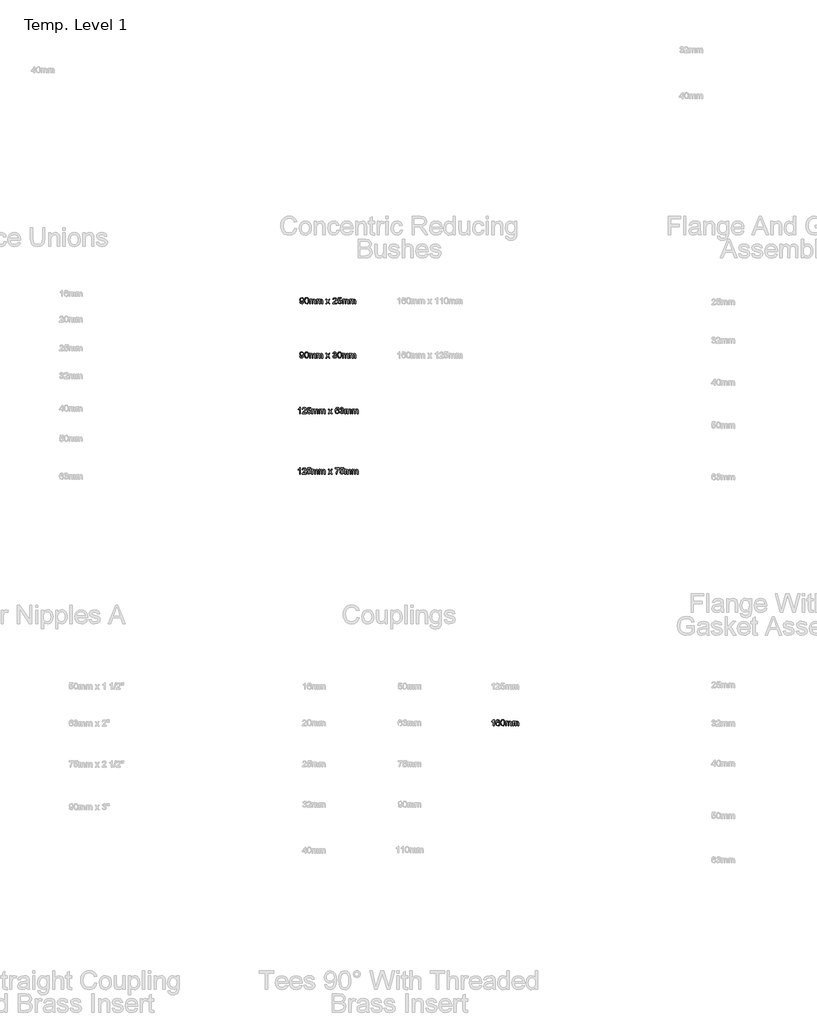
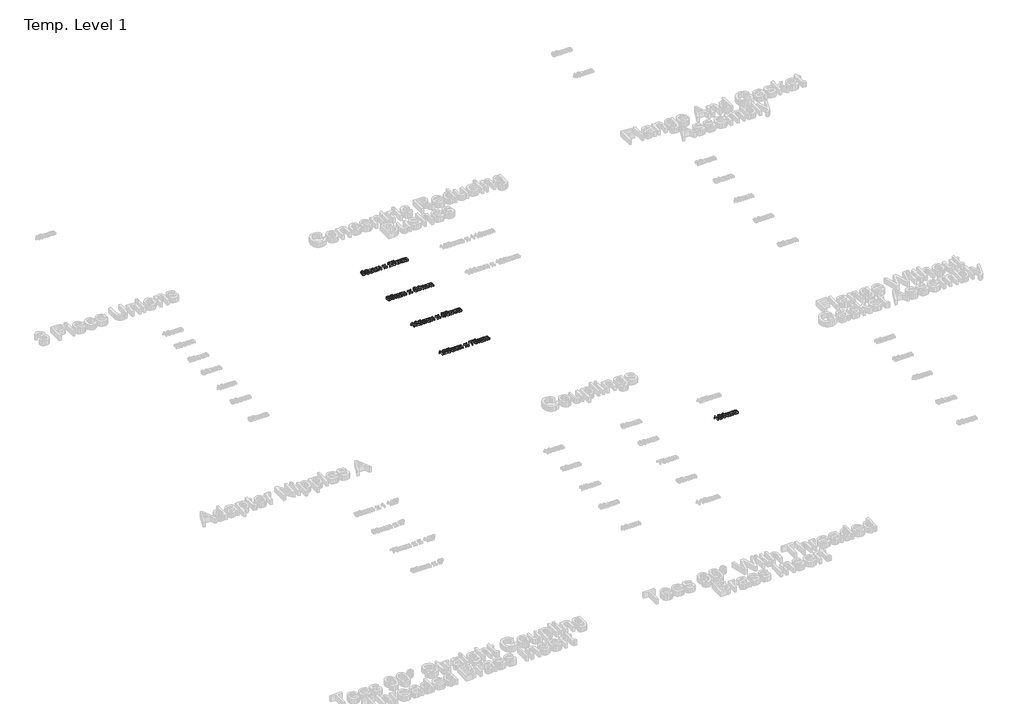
# One storey, part 31 of 62: 5 proxies.
"""IFC4 building model written with IfcOpenShell, lengths in millimetres."""

from ifc_helpers import new_model, si_unit, origin, origin_with_axes, place, context, project, spatial, polyline, outline, extrude, element, save

model = new_model("IFC4")

# Units and contexts
model_context = context("Model", 3, world=origin())
ifc_project = project(units=[si_unit("LENGTHUNIT", "METRE", prefix="MILLI")], contexts=[model_context])

# Site, building, storey
site = spatial("IfcSite", under=ifc_project)
building = spatial("IfcBuilding", under=site)
storey = spatial("IfcBuildingStorey", under=building, Name="Temp. Level 1", Elevation=0.0)

# Proxies
placement = place(None, origin())
element("IfcBuildingElementProxy", 1, Name="50mm Arial", ObjectType="50mm Arial", at=placement, inside=storey, context=model_context, shape_type="SweptSolid", body=[
    extrude(outline(polyline([(17630.8515033, -4514.2550796), (17637.0053494, -4513.4858488), (17639.7697725, -4519.3572431), (17645.0101571, -4521.1781565), (17649.9921283, -4520.0062815), (17653.3695321, -4516.8752719), (17655.3827533, -4511.5267142), (17656.2721763, -4504.3872911), (17651.3142436, -4507.8488296), (17644.5654456, -4509.639695), (17634.2829936, -4505.264695), (17630.0822725, -4493.7382527), (17634.4873206, -4481.8392142), (17645.526984, -4477.3320027), (17654.2950129, -4479.9041181), (17660.3286667, -4487.2358488), (17662.3899648, -4501.0098873), (17660.3346763, -4515.9558008), (17654.2228975, -4524.4233488), (17644.7216956, -4527.3320027), (17635.2625609, -4523.9005123), (17630.8515033, -4514.2550796)]), holes=[polyline([(17656.2361186, -4493.5940219), (17653.5798686, -4486.2142142), (17646.5245802, -4483.4858488), (17639.120734, -4486.4245508), (17636.2361186, -4494.0387335), (17638.964484, -4500.8596469), (17646.3563109, -4503.4858488), (17653.4536667, -4500.8596469), (17656.2361186, -4493.5940219)])]), origin_with_axes(), (0.0, 0.0, 1.0), 15.0),
    extrude(outline(polyline([(17667.7745802, -4502.3440219), (17669.5834744, -4488.1793585), (17674.9560706, -4480.0122911), (17683.9284263, -4477.3320027), (17691.1159263, -4478.9185411), (17696.0798686, -4483.4918585), (17698.964484, -4490.7755123), (17700.0822725, -4502.3440219), (17698.2914071, -4516.4485892), (17692.9368398, -4524.6336854), (17683.9284263, -4527.3320027), (17672.6784263, -4522.6445027), (17669.0005417, -4514.3181806), (17667.7745802, -4502.3440219)]), holes=[polyline([(17673.9284263, -4502.3320027), (17676.8130417, -4517.6144546), (17683.9284263, -4521.1781565), (17691.0438109, -4517.6024354), (17693.9284263, -4502.3320027), (17691.1399648, -4487.2238296), (17683.8563109, -4483.4858488), (17676.9091956, -4486.7791181), (17673.9284263, -4502.3320027)])]), origin_with_axes(), (0.0, 0.0, 1.0), 15.0),
    extrude(outline(polyline([(17707.0053494, -4526.5627719), (17707.0053494, -4490.4089258), (17713.1591956, -4490.4089258), (17713.1591956, -4496.358445), (17717.3899648, -4491.4846469), (17723.4115994, -4489.639695), (17729.5774648, -4491.5207046), (17732.9668879, -4496.7911373), (17737.7685706, -4491.4275556), (17743.8322725, -4489.639695), (17751.8791475, -4492.6144546), (17754.6976571, -4501.7791181), (17754.6976571, -4526.5627719), (17748.5438109, -4526.5627719), (17748.5438109, -4504.4233488), (17747.9728975, -4499.2851277), (17745.9055898, -4496.7550796), (17742.3899648, -4495.7935411), (17736.3382821, -4498.2574835), (17733.9284263, -4506.1541181), (17733.9284263, -4526.5627719), (17727.7745802, -4526.5627719), (17727.7745802, -4503.7382527), (17726.3503013, -4497.7767142), (17721.6808302, -4495.7935411), (17717.1255417, -4497.1156565), (17714.0966956, -4500.9858488), (17713.1591956, -4508.3295988), (17713.1591956, -4526.5627719), (17707.0053494, -4526.5627719)])), origin_with_axes(), (0.0, 0.0, 1.0), 15.0),
    extrude(outline(polyline([(17763.9284263, -4526.5627719), (17763.9284263, -4490.4089258), (17770.0822725, -4490.4089258), (17770.0822725, -4496.358445), (17774.3130417, -4491.4846469), (17780.3346763, -4489.639695), (17786.5005417, -4491.5207046), (17789.8899648, -4496.7911373), (17794.6916475, -4491.4275556), (17800.7553494, -4489.639695), (17808.8022244, -4492.6144546), (17811.620734, -4501.7791181), (17811.620734, -4526.5627719), (17805.4668879, -4526.5627719), (17805.4668879, -4504.4233488), (17804.8959744, -4499.2851277), (17802.8286667, -4496.7550796), (17799.3130417, -4495.7935411), (17793.261359, -4498.2574835), (17790.8515033, -4506.1541181), (17790.8515033, -4526.5627719), (17784.6976571, -4526.5627719), (17784.6976571, -4503.7382527), (17783.2733783, -4497.7767142), (17778.6039071, -4495.7935411), (17774.0486186, -4497.1156565), (17771.0197725, -4500.9858488), (17770.0822725, -4508.3295988), (17770.0822725, -4526.5627719), (17763.9284263, -4526.5627719)])), origin_with_axes(), (0.0, 0.0, 1.0), 15.0),
    extrude(outline(polyline([(17836.2361186, -4526.5627719), (17849.3851571, -4508.389695), (17837.0053494, -4490.4089258), (17844.4091956, -4490.4089258), (17850.3827533, -4499.0627719), (17853.1712148, -4503.1493104), (17855.5870802, -4499.8079642), (17862.3899648, -4490.4089258), (17869.7938109, -4490.4089258), (17856.7890033, -4508.389695), (17869.3130417, -4526.5627719), (17861.9091956, -4526.5627719), (17854.3731379, -4515.6372911), (17852.9909263, -4513.6420988), (17843.6399648, -4526.5627719), (17836.2361186, -4526.5627719)])), origin_with_axes(), (0.0, 0.0, 1.0), 15.0),
    extrude(outline(polyline([(17923.9284263, -4520.4089258), (17923.9284263, -4526.5627719), (17891.620734, -4526.5627719), (17892.2817917, -4522.3199835), (17896.0197725, -4515.7875315), (17903.7240994, -4508.6541181), (17914.3490994, -4498.4017142), (17917.0053494, -4491.4305604), (17914.4993398, -4485.7875315), (17907.9548686, -4483.4858488), (17901.1339552, -4485.733445), (17898.5438109, -4491.9473873), (17892.3899648, -4491.1781565), (17897.1075129, -4480.8776758), (17908.0870802, -4477.3320027), (17919.1027052, -4481.2743104), (17923.1591956, -4491.0579642), (17922.0654456, -4496.8933008), (17918.4296283, -4502.9269546), (17909.6135225, -4511.358445), (17902.5341956, -4517.2779161), (17899.7577533, -4520.4089258), (17923.9284263, -4520.4089258)])), origin_with_axes(), (0.0, 0.0, 1.0), 15.0),
    extrude(outline(polyline([(17930.0822725, -4513.4858488), (17936.2361186, -4512.7166181), (17939.3370802, -4519.0567623), (17945.7673686, -4521.1781565), (17953.4837148, -4518.2274354), (17956.2361186, -4510.3969065), (17953.6579936, -4503.0892142), (17945.8635225, -4500.4089258), (17940.4608783, -4501.4786373), (17937.0053494, -4504.2550796), (17930.8515033, -4503.4858488), (17936.2361186, -4478.1012335), (17960.0822725, -4478.1012335), (17960.0822725, -4484.2550796), (17941.2120802, -4484.2550796), (17938.5798686, -4497.8127719), (17947.5822725, -4494.2550796), (17958.105109, -4498.6661373), (17962.3899648, -4510.0122911), (17958.5317917, -4521.4305604), (17952.9909263, -4525.8566421), (17945.7433302, -4527.3320027), (17934.8839552, -4523.5399354), (17930.0822725, -4513.4858488)])), origin_with_axes(), (0.0, 0.0, 1.0), 15.0),
    extrude(outline(polyline([(17969.3130417, -4526.5627719), (17969.3130417, -4490.4089258), (17975.4668879, -4490.4089258), (17975.4668879, -4496.358445), (17979.6976571, -4491.4846469), (17985.7192917, -4489.639695), (17991.8851571, -4491.5207046), (17995.2745802, -4496.7911373), (18000.0762629, -4491.4275556), (18006.1399648, -4489.639695), (18014.1868398, -4492.6144546), (18017.0053494, -4501.7791181), (18017.0053494, -4526.5627719), (18010.8515033, -4526.5627719), (18010.8515033, -4504.4233488), (18010.2805898, -4499.2851277), (18008.2132821, -4496.7550796), (18004.6976571, -4495.7935411), (17998.6459744, -4498.2574835), (17996.2361186, -4506.1541181), (17996.2361186, -4526.5627719), (17990.0822725, -4526.5627719), (17990.0822725, -4503.7382527), (17988.6579936, -4497.7767142), (17983.9885225, -4495.7935411), (17979.433234, -4497.1156565), (17976.4043879, -4500.9858488), (17975.4668879, -4508.3295988), (17975.4668879, -4526.5627719), (17969.3130417, -4526.5627719)])), origin_with_axes(), (0.0, 0.0, 1.0), 15.0),
    extrude(outline(polyline([(18026.2361186, -4526.5627719), (18026.2361186, -4490.4089258), (18032.3899648, -4490.4089258), (18032.3899648, -4496.358445), (18036.620734, -4491.4846469), (18042.6423686, -4489.639695), (18048.808234, -4491.5207046), (18052.1976571, -4496.7911373), (18056.9993398, -4491.4275556), (18063.0630417, -4489.639695), (18071.1099167, -4492.6144546), (18073.9284263, -4501.7791181), (18073.9284263, -4526.5627719), (18067.7745802, -4526.5627719), (18067.7745802, -4504.4233488), (18067.2036667, -4499.2851277), (18065.136359, -4496.7550796), (18061.620734, -4495.7935411), (18055.5690513, -4498.2574835), (18053.1591956, -4506.1541181), (18053.1591956, -4526.5627719), (18047.0053494, -4526.5627719), (18047.0053494, -4503.7382527), (18045.5810706, -4497.7767142), (18040.9115994, -4495.7935411), (18036.3563109, -4497.1156565), (18033.3274648, -4500.9858488), (18032.3899648, -4508.3295988), (18032.3899648, -4526.5627719), (18026.2361186, -4526.5627719)])), origin_with_axes(), (0.0, 0.0, 1.0), 15.0),
])
element("IfcBuildingElementProxy", 2, Name="50mm Arial", ObjectType="50mm Arial", at=placement, inside=storey, context=model_context, shape_type="SweptSolid", body=[
    extrude(outline(polyline([(17630.8515033, -4945.3908247), (17637.0053494, -4944.6215939), (17639.7697725, -4950.4929882), (17645.0101571, -4952.3139016), (17649.9921283, -4951.1420266), (17653.3695321, -4948.011017), (17655.3827533, -4942.6624593), (17656.2721763, -4935.5230362), (17651.3142436, -4938.9845747), (17644.5654456, -4940.7754401), (17634.2829936, -4936.4004401), (17630.0822725, -4924.8739978), (17634.4873206, -4912.9749593), (17645.526984, -4908.4677478), (17654.2950129, -4911.0398632), (17660.3286667, -4918.3715939), (17662.3899648, -4932.1456324), (17660.3346763, -4947.0915459), (17654.2228975, -4955.5590939), (17644.7216956, -4958.4677478), (17635.2625609, -4955.0362574), (17630.8515033, -4945.3908247)]), holes=[polyline([(17656.2361186, -4924.729767), (17653.5798686, -4917.3499593), (17646.5245802, -4914.6215939), (17639.120734, -4917.5602959), (17636.2361186, -4925.1744786), (17638.964484, -4931.995392), (17646.3563109, -4934.6215939), (17653.4536667, -4931.995392), (17656.2361186, -4924.729767)])]), origin_with_axes(), (0.0, 0.0, 1.0), 15.0),
    extrude(outline(polyline([(17667.7745802, -4933.479767), (17669.5834744, -4919.3151036), (17674.9560706, -4911.1480362), (17683.9284263, -4908.4677478), (17691.1159263, -4910.0542862), (17696.0798686, -4914.6276036), (17698.964484, -4921.9112574), (17700.0822725, -4933.479767), (17698.2914071, -4947.5843343), (17692.9368398, -4955.7694305), (17683.9284263, -4958.4677478), (17672.6784263, -4953.7802478), (17669.0005417, -4945.4539257), (17667.7745802, -4933.479767)]), holes=[polyline([(17673.9284263, -4933.4677478), (17676.8130417, -4948.7501997), (17683.9284263, -4952.3139016), (17691.0438109, -4948.7381805), (17693.9284263, -4933.4677478), (17691.1399648, -4918.3595747), (17683.8563109, -4914.6215939), (17676.9091956, -4917.9148632), (17673.9284263, -4933.4677478)])]), origin_with_axes(), (0.0, 0.0, 1.0), 15.0),
    extrude(outline(polyline([(17707.0053494, -4957.698517), (17707.0053494, -4921.5446709), (17713.1591956, -4921.5446709), (17713.1591956, -4927.4941901), (17717.3899648, -4922.620392), (17723.4115994, -4920.7754401), (17729.5774648, -4922.6564497), (17732.9668879, -4927.9268824), (17737.7685706, -4922.5633007), (17743.8322725, -4920.7754401), (17751.8791475, -4923.7501997), (17754.6976571, -4932.9148632), (17754.6976571, -4957.698517), (17748.5438109, -4957.698517), (17748.5438109, -4935.5590939), (17747.9728975, -4930.4208728), (17745.9055898, -4927.8908247), (17742.3899648, -4926.9292862), (17736.3382821, -4929.3932286), (17733.9284263, -4937.2898632), (17733.9284263, -4957.698517), (17727.7745802, -4957.698517), (17727.7745802, -4934.8739978), (17726.3503013, -4928.9124593), (17721.6808302, -4926.9292862), (17717.1255417, -4928.2514016), (17714.0966956, -4932.1215939), (17713.1591956, -4939.4653439), (17713.1591956, -4957.698517), (17707.0053494, -4957.698517)])), origin_with_axes(), (0.0, 0.0, 1.0), 15.0),
    extrude(outline(polyline([(17763.9284263, -4957.698517), (17763.9284263, -4921.5446709), (17770.0822725, -4921.5446709), (17770.0822725, -4927.4941901), (17774.3130417, -4922.620392), (17780.3346763, -4920.7754401), (17786.5005417, -4922.6564497), (17789.8899648, -4927.9268824), (17794.6916475, -4922.5633007), (17800.7553494, -4920.7754401), (17808.8022244, -4923.7501997), (17811.620734, -4932.9148632), (17811.620734, -4957.698517), (17805.4668879, -4957.698517), (17805.4668879, -4935.5590939), (17804.8959744, -4930.4208728), (17802.8286667, -4927.8908247), (17799.3130417, -4926.9292862), (17793.261359, -4929.3932286), (17790.8515033, -4937.2898632), (17790.8515033, -4957.698517), (17784.6976571, -4957.698517), (17784.6976571, -4934.8739978), (17783.2733783, -4928.9124593), (17778.6039071, -4926.9292862), (17774.0486186, -4928.2514016), (17771.0197725, -4932.1215939), (17770.0822725, -4939.4653439), (17770.0822725, -4957.698517), (17763.9284263, -4957.698517)])), origin_with_axes(), (0.0, 0.0, 1.0), 15.0),
    extrude(outline(polyline([(17836.2361186, -4957.698517), (17849.3851571, -4939.5254401), (17837.0053494, -4921.5446709), (17844.4091956, -4921.5446709), (17850.3827533, -4930.198517), (17853.1712148, -4934.2850555), (17855.5870802, -4930.9437093), (17862.3899648, -4921.5446709), (17869.7938109, -4921.5446709), (17856.7890033, -4939.5254401), (17869.3130417, -4957.698517), (17861.9091956, -4957.698517), (17854.3731379, -4946.7730362), (17852.9909263, -4944.7778439), (17843.6399648, -4957.698517), (17836.2361186, -4957.698517)])), origin_with_axes(), (0.0, 0.0, 1.0), 15.0),
    extrude(outline(polyline([(17892.3899648, -4944.6215939), (17898.5438109, -4943.8523632), (17901.9392436, -4950.3307286), (17908.2914071, -4952.3139016), (17915.7673686, -4949.5855362), (17918.5438109, -4942.8307286), (17915.7914071, -4936.4665459), (17908.7962148, -4933.948517), (17904.4813109, -4934.6215939), (17905.1664071, -4928.4677478), (17913.1351571, -4926.7730362), (17916.2361186, -4921.3403439), (17913.9885225, -4916.526642), (17908.1952533, -4914.6215939), (17902.3298686, -4916.5446709), (17899.3130417, -4922.3139016), (17893.1591956, -4921.5446709), (17898.1952533, -4911.8932286), (17907.9789071, -4908.4677478), (17915.4007821, -4910.1564497), (17920.5930898, -4914.7718343), (17922.3899648, -4920.979767), (17920.683234, -4926.6528439), (17915.6351571, -4930.7273632), (17922.3418879, -4934.9340939), (17924.6976571, -4942.9389016), (17919.9861186, -4953.948517), (17908.0750609, -4958.4677478), (17897.2817917, -4954.6095747), (17892.3899648, -4944.6215939)])), origin_with_axes(), (0.0, 0.0, 1.0), 15.0),
    extrude(outline(polyline([(17930.0822725, -4933.479767), (17931.8911667, -4919.3151036), (17937.2637629, -4911.1480362), (17946.2361186, -4908.4677478), (17953.4236186, -4910.0542862), (17958.3875609, -4914.6276036), (17961.2721763, -4921.9112574), (17962.3899648, -4933.479767), (17960.5990994, -4947.5843343), (17955.2445321, -4955.7694305), (17946.2361186, -4958.4677478), (17934.9861186, -4953.7802478), (17931.308234, -4945.4539257), (17930.0822725, -4933.479767)]), holes=[polyline([(17936.2361186, -4933.4677478), (17939.120734, -4948.7501997), (17946.2361186, -4952.3139016), (17953.3515033, -4948.7381805), (17956.2361186, -4933.4677478), (17953.4476571, -4918.3595747), (17946.1640033, -4914.6215939), (17939.2168879, -4917.9148632), (17936.2361186, -4933.4677478)])]), origin_with_axes(), (0.0, 0.0, 1.0), 15.0),
    extrude(outline(polyline([(17969.3130417, -4957.698517), (17969.3130417, -4921.5446709), (17975.4668879, -4921.5446709), (17975.4668879, -4927.4941901), (17979.6976571, -4922.620392), (17985.7192917, -4920.7754401), (17991.8851571, -4922.6564497), (17995.2745802, -4927.9268824), (18000.0762629, -4922.5633007), (18006.1399648, -4920.7754401), (18014.1868398, -4923.7501997), (18017.0053494, -4932.9148632), (18017.0053494, -4957.698517), (18010.8515033, -4957.698517), (18010.8515033, -4935.5590939), (18010.2805898, -4930.4208728), (18008.2132821, -4927.8908247), (18004.6976571, -4926.9292862), (17998.6459744, -4929.3932286), (17996.2361186, -4937.2898632), (17996.2361186, -4957.698517), (17990.0822725, -4957.698517), (17990.0822725, -4934.8739978), (17988.6579936, -4928.9124593), (17983.9885225, -4926.9292862), (17979.433234, -4928.2514016), (17976.4043879, -4932.1215939), (17975.4668879, -4939.4653439), (17975.4668879, -4957.698517), (17969.3130417, -4957.698517)])), origin_with_axes(), (0.0, 0.0, 1.0), 15.0),
    extrude(outline(polyline([(18026.2361186, -4957.698517), (18026.2361186, -4921.5446709), (18032.3899648, -4921.5446709), (18032.3899648, -4927.4941901), (18036.620734, -4922.620392), (18042.6423686, -4920.7754401), (18048.808234, -4922.6564497), (18052.1976571, -4927.9268824), (18056.9993398, -4922.5633007), (18063.0630417, -4920.7754401), (18071.1099167, -4923.7501997), (18073.9284263, -4932.9148632), (18073.9284263, -4957.698517), (18067.7745802, -4957.698517), (18067.7745802, -4935.5590939), (18067.2036667, -4930.4208728), (18065.136359, -4927.8908247), (18061.620734, -4926.9292862), (18055.5690513, -4929.3932286), (18053.1591956, -4937.2898632), (18053.1591956, -4957.698517), (18047.0053494, -4957.698517), (18047.0053494, -4934.8739978), (18045.5810706, -4928.9124593), (18040.9115994, -4926.9292862), (18036.3563109, -4928.2514016), (18033.3274648, -4932.1215939), (18032.3899648, -4939.4653439), (18032.3899648, -4957.698517), (18026.2361186, -4957.698517)])), origin_with_axes(), (0.0, 0.0, 1.0), 15.0),
])
element("IfcBuildingElementProxy", 3, Name="50mm Arial", ObjectType="50mm Arial", at=placement, inside=storey, context=model_context, shape_type="SweptSolid", body=[
    extrude(outline(polyline([(17634.3130417, -5400.198517), (17628.1591956, -5400.198517), (17628.1591956, -5361.8331324), (17622.3298686, -5365.9857766), (17615.8515033, -5369.0927478), (17615.8515033, -5363.2754401), (17624.8719359, -5357.5182286), (17630.3466956, -5350.9677478), (17634.3130417, -5350.9677478), (17634.3130417, -5400.198517)])), origin_with_axes(), (0.0, 0.0, 1.0), 15.0),
    extrude(outline(polyline([(17680.4668879, -5394.0446709), (17680.4668879, -5400.198517), (17648.1591956, -5400.198517), (17648.8202533, -5395.9557286), (17652.558234, -5389.4232766), (17660.2625609, -5382.2898632), (17670.8875609, -5372.0374593), (17673.5438109, -5365.0663055), (17671.0378013, -5359.4232766), (17664.4933302, -5357.1215939), (17657.6724167, -5359.3691901), (17655.0822725, -5365.5831324), (17648.9284263, -5364.8139016), (17653.6459744, -5354.5134209), (17664.6255417, -5350.9677478), (17675.6411667, -5354.9100555), (17679.6976571, -5364.6937093), (17678.6039071, -5370.5290459), (17674.9680898, -5376.5626997), (17666.151984, -5384.9941901), (17659.0726571, -5390.9136612), (17656.2962148, -5394.0446709), (17680.4668879, -5394.0446709)])), origin_with_axes(), (0.0, 0.0, 1.0), 15.0),
    extrude(outline(polyline([(17686.620734, -5387.1215939), (17692.7745802, -5386.3523632), (17695.8755417, -5392.6925074), (17702.3058302, -5394.8139016), (17710.0221763, -5391.8631805), (17712.7745802, -5384.0326516), (17710.1964552, -5376.7249593), (17702.401984, -5374.0446709), (17696.9993398, -5375.1143824), (17693.5438109, -5377.8908247), (17687.3899648, -5377.1215939), (17692.7745802, -5351.7369786), (17716.620734, -5351.7369786), (17716.620734, -5357.8908247), (17697.7505417, -5357.8908247), (17695.1183302, -5371.448517), (17704.120734, -5367.8908247), (17714.6435706, -5372.3018824), (17718.9284263, -5383.6480362), (17715.0702533, -5395.0663055), (17709.5293879, -5399.4923872), (17702.2817917, -5400.9677478), (17691.4224167, -5397.1756805), (17686.620734, -5387.1215939)])), origin_with_axes(), (0.0, 0.0, 1.0), 15.0),
    extrude(outline(polyline([(17725.8515033, -5400.198517), (17725.8515033, -5364.0446709), (17732.0053494, -5364.0446709), (17732.0053494, -5369.9941901), (17736.2361186, -5365.120392), (17742.2577533, -5363.2754401), (17748.4236186, -5365.1564497), (17751.8130417, -5370.4268824), (17756.6147244, -5365.0633007), (17762.6784263, -5363.2754401), (17770.7253013, -5366.2501997), (17773.5438109, -5375.4148632), (17773.5438109, -5400.198517), (17767.3899648, -5400.198517), (17767.3899648, -5378.0590939), (17766.8190513, -5372.9208728), (17764.7517436, -5370.3908247), (17761.2361186, -5369.4292862), (17755.1844359, -5371.8932286), (17752.7745802, -5379.7898632), (17752.7745802, -5400.198517), (17746.620734, -5400.198517), (17746.620734, -5377.3739978), (17745.1964552, -5371.4124593), (17740.526984, -5369.4292862), (17735.9716956, -5370.7514016), (17732.9428494, -5374.6215939), (17732.0053494, -5381.9653439), (17732.0053494, -5400.198517), (17725.8515033, -5400.198517)])), origin_with_axes(), (0.0, 0.0, 1.0), 15.0),
    extrude(outline(polyline([(17782.7745802, -5400.198517), (17782.7745802, -5364.0446709), (17788.9284263, -5364.0446709), (17788.9284263, -5369.9941901), (17793.1591956, -5365.120392), (17799.1808302, -5363.2754401), (17805.3466956, -5365.1564497), (17808.7361186, -5370.4268824), (17813.5378013, -5365.0633007), (17819.6015033, -5363.2754401), (17827.6483783, -5366.2501997), (17830.4668879, -5375.4148632), (17830.4668879, -5400.198517), (17824.3130417, -5400.198517), (17824.3130417, -5378.0590939), (17823.7421283, -5372.9208728), (17821.6748206, -5370.3908247), (17818.1591956, -5369.4292862), (17812.1075129, -5371.8932286), (17809.6976571, -5379.7898632), (17809.6976571, -5400.198517), (17803.5438109, -5400.198517), (17803.5438109, -5377.3739978), (17802.1195321, -5371.4124593), (17797.4500609, -5369.4292862), (17792.8947725, -5370.7514016), (17789.8659263, -5374.6215939), (17788.9284263, -5381.9653439), (17788.9284263, -5400.198517), (17782.7745802, -5400.198517)])), origin_with_axes(), (0.0, 0.0, 1.0), 15.0),
    extrude(outline(polyline([(17855.0822725, -5400.198517), (17868.2313109, -5382.0254401), (17855.8515033, -5364.0446709), (17863.2553494, -5364.0446709), (17869.2289071, -5372.698517), (17872.0173686, -5376.7850555), (17874.433234, -5373.4437093), (17881.2361186, -5364.0446709), (17888.6399648, -5364.0446709), (17875.6351571, -5382.0254401), (17888.1591956, -5400.198517), (17880.7553494, -5400.198517), (17873.2192917, -5389.2730362), (17871.8370802, -5387.2778439), (17862.4861186, -5400.198517), (17855.0822725, -5400.198517)])), origin_with_axes(), (0.0, 0.0, 1.0), 15.0),
    extrude(outline(polyline([(17942.7745802, -5364.0446709), (17936.620734, -5364.8139016), (17934.2890033, -5359.6816901), (17928.1231379, -5357.1215939), (17922.5702533, -5358.6119786), (17918.3695321, -5364.2069305), (17916.620734, -5375.1744786), (17922.0474167, -5370.2646228), (17928.7721763, -5368.6600555), (17939.2289071, -5373.0470747), (17943.5438109, -5384.3812093), (17941.5125609, -5392.8727959), (17935.9236186, -5398.8824112), (17927.8587148, -5400.9677478), (17915.3166475, -5395.4389016), (17911.6793278, -5388.1191901), (17910.4668879, -5377.2177478), (17911.8130417, -5364.9611372), (17915.8515033, -5356.5807286), (17921.3653254, -5352.370993), (17928.5077533, -5350.9677478), (17938.2313109, -5354.4413055), (17942.7745802, -5364.0446709)]), holes=[polyline([(17916.620734, -5384.2850555), (17918.0450129, -5389.6155843), (17921.8310706, -5393.4857766), (17927.3779456, -5394.8139016), (17934.6315513, -5392.0614978), (17937.3899648, -5384.5855362), (17934.667609, -5377.4280843), (17927.1255417, -5374.8139016), (17919.6796283, -5377.4280843), (17916.620734, -5384.2850555)])]), origin_with_axes(), (0.0, 0.0, 1.0), 15.0),
    extrude(outline(polyline([(17948.9284263, -5387.1215939), (17955.0822725, -5386.3523632), (17958.4777052, -5392.8307286), (17964.8298686, -5394.8139016), (17972.3058302, -5392.0855362), (17975.0822725, -5385.3307286), (17972.3298686, -5378.9665459), (17965.3346763, -5376.448517), (17961.0197725, -5377.1215939), (17961.7048686, -5370.9677478), (17969.6736186, -5369.2730362), (17972.7745802, -5363.8403439), (17970.526984, -5359.026642), (17964.7337148, -5357.1215939), (17958.8683302, -5359.0446709), (17955.8515033, -5364.8139016), (17949.6976571, -5364.0446709), (17954.7337148, -5354.3932286), (17964.5173686, -5350.9677478), (17971.9392436, -5352.6564497), (17977.1315513, -5357.2718343), (17978.9284263, -5363.479767), (17977.2216956, -5369.1528439), (17972.1736186, -5373.2273632), (17978.8803494, -5377.4340939), (17981.2361186, -5385.4389016), (17976.5245802, -5396.448517), (17964.6135225, -5400.9677478), (17953.8202533, -5397.1095747), (17948.9284263, -5387.1215939)])), origin_with_axes(), (0.0, 0.0, 1.0), 15.0),
    extrude(outline(polyline([(17988.1591956, -5400.198517), (17988.1591956, -5364.0446709), (17994.3130417, -5364.0446709), (17994.3130417, -5369.9941901), (17998.5438109, -5365.120392), (18004.5654456, -5363.2754401), (18010.7313109, -5365.1564497), (18014.120734, -5370.4268824), (18018.9224167, -5365.0633007), (18024.9861186, -5363.2754401), (18033.0329936, -5366.2501997), (18035.8515033, -5375.4148632), (18035.8515033, -5400.198517), (18029.6976571, -5400.198517), (18029.6976571, -5378.0590939), (18029.1267436, -5372.9208728), (18027.0594359, -5370.3908247), (18023.5438109, -5369.4292862), (18017.4921283, -5371.8932286), (18015.0822725, -5379.7898632), (18015.0822725, -5400.198517), (18008.9284263, -5400.198517), (18008.9284263, -5377.3739978), (18007.5041475, -5371.4124593), (18002.8346763, -5369.4292862), (17998.2793879, -5370.7514016), (17995.2505417, -5374.6215939), (17994.3130417, -5381.9653439), (17994.3130417, -5400.198517), (17988.1591956, -5400.198517)])), origin_with_axes(), (0.0, 0.0, 1.0), 15.0),
    extrude(outline(polyline([(18045.0822725, -5400.198517), (18045.0822725, -5364.0446709), (18051.2361186, -5364.0446709), (18051.2361186, -5369.9941901), (18055.4668879, -5365.120392), (18061.4885225, -5363.2754401), (18067.6543879, -5365.1564497), (18071.0438109, -5370.4268824), (18075.8454936, -5365.0633007), (18081.9091956, -5363.2754401), (18089.9560706, -5366.2501997), (18092.7745802, -5375.4148632), (18092.7745802, -5400.198517), (18086.620734, -5400.198517), (18086.620734, -5378.0590939), (18086.0498206, -5372.9208728), (18083.9825129, -5370.3908247), (18080.4668879, -5369.4292862), (18074.4152052, -5371.8932286), (18072.0053494, -5379.7898632), (18072.0053494, -5400.198517), (18065.8515033, -5400.198517), (18065.8515033, -5377.3739978), (18064.4272244, -5371.4124593), (18059.7577533, -5369.4292862), (18055.2024648, -5370.7514016), (18052.1736186, -5374.6215939), (18051.2361186, -5381.9653439), (18051.2361186, -5400.198517), (18045.0822725, -5400.198517)])), origin_with_axes(), (0.0, 0.0, 1.0), 15.0),
])
element("IfcBuildingElementProxy", 4, Name="50mm Arial", ObjectType="50mm Arial", at=placement, inside=storey, context=model_context, shape_type="SweptSolid", body=[
    extrude(outline(polyline([(17634.3130417, -5880.198517), (17628.1591956, -5880.198517), (17628.1591956, -5841.8331324), (17622.3298686, -5845.9857766), (17615.8515033, -5849.0927478), (17615.8515033, -5843.2754401), (17624.8719359, -5837.5182286), (17630.3466956, -5830.9677478), (17634.3130417, -5830.9677478), (17634.3130417, -5880.198517)])), origin_with_axes(), (0.0, 0.0, 1.0), 15.0),
    extrude(outline(polyline([(17680.4668879, -5874.0446709), (17680.4668879, -5880.198517), (17648.1591956, -5880.198517), (17648.8202533, -5875.9557286), (17652.558234, -5869.4232766), (17660.2625609, -5862.2898632), (17670.8875609, -5852.0374593), (17673.5438109, -5845.0663055), (17671.0378013, -5839.4232766), (17664.4933302, -5837.1215939), (17657.6724167, -5839.3691901), (17655.0822725, -5845.5831324), (17648.9284263, -5844.8139016), (17653.6459744, -5834.5134209), (17664.6255417, -5830.9677478), (17675.6411667, -5834.9100555), (17679.6976571, -5844.6937093), (17678.6039071, -5850.5290459), (17674.9680898, -5856.5626997), (17666.151984, -5864.9941901), (17659.0726571, -5870.9136612), (17656.2962148, -5874.0446709), (17680.4668879, -5874.0446709)])), origin_with_axes(), (0.0, 0.0, 1.0), 15.0),
    extrude(outline(polyline([(17686.620734, -5867.1215939), (17692.7745802, -5866.3523632), (17695.8755417, -5872.6925074), (17702.3058302, -5874.8139016), (17710.0221763, -5871.8631805), (17712.7745802, -5864.0326516), (17710.1964552, -5856.7249593), (17702.401984, -5854.0446709), (17696.9993398, -5855.1143824), (17693.5438109, -5857.8908247), (17687.3899648, -5857.1215939), (17692.7745802, -5831.7369786), (17716.620734, -5831.7369786), (17716.620734, -5837.8908247), (17697.7505417, -5837.8908247), (17695.1183302, -5851.448517), (17704.120734, -5847.8908247), (17714.6435706, -5852.3018824), (17718.9284263, -5863.6480362), (17715.0702533, -5875.0663055), (17709.5293879, -5879.4923872), (17702.2817917, -5880.9677478), (17691.4224167, -5877.1756805), (17686.620734, -5867.1215939)])), origin_with_axes(), (0.0, 0.0, 1.0), 15.0),
    extrude(outline(polyline([(17725.8515033, -5880.198517), (17725.8515033, -5844.0446709), (17732.0053494, -5844.0446709), (17732.0053494, -5849.9941901), (17736.2361186, -5845.120392), (17742.2577533, -5843.2754401), (17748.4236186, -5845.1564497), (17751.8130417, -5850.4268824), (17756.6147244, -5845.0633007), (17762.6784263, -5843.2754401), (17770.7253013, -5846.2501997), (17773.5438109, -5855.4148632), (17773.5438109, -5880.198517), (17767.3899648, -5880.198517), (17767.3899648, -5858.0590939), (17766.8190513, -5852.9208728), (17764.7517436, -5850.3908247), (17761.2361186, -5849.4292862), (17755.1844359, -5851.8932286), (17752.7745802, -5859.7898632), (17752.7745802, -5880.198517), (17746.620734, -5880.198517), (17746.620734, -5857.3739978), (17745.1964552, -5851.4124593), (17740.526984, -5849.4292862), (17735.9716956, -5850.7514016), (17732.9428494, -5854.6215939), (17732.0053494, -5861.9653439), (17732.0053494, -5880.198517), (17725.8515033, -5880.198517)])), origin_with_axes(), (0.0, 0.0, 1.0), 15.0),
    extrude(outline(polyline([(17782.7745802, -5880.198517), (17782.7745802, -5844.0446709), (17788.9284263, -5844.0446709), (17788.9284263, -5849.9941901), (17793.1591956, -5845.120392), (17799.1808302, -5843.2754401), (17805.3466956, -5845.1564497), (17808.7361186, -5850.4268824), (17813.5378013, -5845.0633007), (17819.6015033, -5843.2754401), (17827.6483783, -5846.2501997), (17830.4668879, -5855.4148632), (17830.4668879, -5880.198517), (17824.3130417, -5880.198517), (17824.3130417, -5858.0590939), (17823.7421283, -5852.9208728), (17821.6748206, -5850.3908247), (17818.1591956, -5849.4292862), (17812.1075129, -5851.8932286), (17809.6976571, -5859.7898632), (17809.6976571, -5880.198517), (17803.5438109, -5880.198517), (17803.5438109, -5857.3739978), (17802.1195321, -5851.4124593), (17797.4500609, -5849.4292862), (17792.8947725, -5850.7514016), (17789.8659263, -5854.6215939), (17788.9284263, -5861.9653439), (17788.9284263, -5880.198517), (17782.7745802, -5880.198517)])), origin_with_axes(), (0.0, 0.0, 1.0), 15.0),
    extrude(outline(polyline([(17855.0822725, -5880.198517), (17868.2313109, -5862.0254401), (17855.8515033, -5844.0446709), (17863.2553494, -5844.0446709), (17869.2289071, -5852.698517), (17872.0173686, -5856.7850555), (17874.433234, -5853.4437093), (17881.2361186, -5844.0446709), (17888.6399648, -5844.0446709), (17875.6351571, -5862.0254401), (17888.1591956, -5880.198517), (17880.7553494, -5880.198517), (17873.2192917, -5869.2730362), (17871.8370802, -5867.2778439), (17862.4861186, -5880.198517), (17855.0822725, -5880.198517)])), origin_with_axes(), (0.0, 0.0, 1.0), 15.0),
    extrude(outline(polyline([(17911.2361186, -5837.8908247), (17911.2361186, -5831.7369786), (17943.5438109, -5831.7369786), (17943.5438109, -5836.7129401), (17934.3791475, -5849.9521228), (17927.3659263, -5866.8211132), (17925.0822725, -5880.198517), (17918.9284263, -5880.198517), (17921.3743398, -5866.3163055), (17928.0870802, -5850.6251997), (17937.3899648, -5837.8908247), (17911.2361186, -5837.8908247)])), origin_with_axes(), (0.0, 0.0, 1.0), 15.0),
    extrude(outline(polyline([(17948.9284263, -5867.1215939), (17955.0822725, -5866.3523632), (17958.183234, -5872.6925074), (17964.6135225, -5874.8139016), (17972.3298686, -5871.8631805), (17975.0822725, -5864.0326516), (17972.5041475, -5856.7249593), (17964.7096763, -5854.0446709), (17959.3070321, -5855.1143824), (17955.8515033, -5857.8908247), (17949.6976571, -5857.1215939), (17955.0822725, -5831.7369786), (17978.9284263, -5831.7369786), (17978.9284263, -5837.8908247), (17960.058234, -5837.8908247), (17957.4260225, -5851.448517), (17966.4284263, -5847.8908247), (17976.9512629, -5852.3018824), (17981.2361186, -5863.6480362), (17977.3779456, -5875.0663055), (17971.8370802, -5879.4923872), (17964.589484, -5880.9677478), (17953.730109, -5877.1756805), (17948.9284263, -5867.1215939)])), origin_with_axes(), (0.0, 0.0, 1.0), 15.0),
    extrude(outline(polyline([(17988.1591956, -5880.198517), (17988.1591956, -5844.0446709), (17994.3130417, -5844.0446709), (17994.3130417, -5849.9941901), (17998.5438109, -5845.120392), (18004.5654456, -5843.2754401), (18010.7313109, -5845.1564497), (18014.120734, -5850.4268824), (18018.9224167, -5845.0633007), (18024.9861186, -5843.2754401), (18033.0329936, -5846.2501997), (18035.8515033, -5855.4148632), (18035.8515033, -5880.198517), (18029.6976571, -5880.198517), (18029.6976571, -5858.0590939), (18029.1267436, -5852.9208728), (18027.0594359, -5850.3908247), (18023.5438109, -5849.4292862), (18017.4921283, -5851.8932286), (18015.0822725, -5859.7898632), (18015.0822725, -5880.198517), (18008.9284263, -5880.198517), (18008.9284263, -5857.3739978), (18007.5041475, -5851.4124593), (18002.8346763, -5849.4292862), (17998.2793879, -5850.7514016), (17995.2505417, -5854.6215939), (17994.3130417, -5861.9653439), (17994.3130417, -5880.198517), (17988.1591956, -5880.198517)])), origin_with_axes(), (0.0, 0.0, 1.0), 15.0),
    extrude(outline(polyline([(18045.0822725, -5880.198517), (18045.0822725, -5844.0446709), (18051.2361186, -5844.0446709), (18051.2361186, -5849.9941901), (18055.4668879, -5845.120392), (18061.4885225, -5843.2754401), (18067.6543879, -5845.1564497), (18071.0438109, -5850.4268824), (18075.8454936, -5845.0633007), (18081.9091956, -5843.2754401), (18089.9560706, -5846.2501997), (18092.7745802, -5855.4148632), (18092.7745802, -5880.198517), (18086.620734, -5880.198517), (18086.620734, -5858.0590939), (18086.0498206, -5852.9208728), (18083.9825129, -5850.3908247), (18080.4668879, -5849.4292862), (18074.4152052, -5851.8932286), (18072.0053494, -5859.7898632), (18072.0053494, -5880.198517), (18065.8515033, -5880.198517), (18065.8515033, -5857.3739978), (18064.4272244, -5851.4124593), (18059.7577533, -5849.4292862), (18055.2024648, -5850.7514016), (18052.1736186, -5854.6215939), (18051.2361186, -5861.9653439), (18051.2361186, -5880.198517), (18045.0822725, -5880.198517)])), origin_with_axes(), (0.0, 0.0, 1.0), 15.0),
])
element("IfcBuildingElementProxy", 5, Name="50mm Arial", ObjectType="50mm Arial", at=placement, inside=storey, context=model_context, shape_type="SweptSolid", body=[
    extrude(outline(polyline([(19174.4668879, -7882.698517), (19168.3130417, -7882.698517), (19168.3130417, -7844.3331324), (19162.4837148, -7848.4857766), (19156.0053494, -7851.5927478), (19156.0053494, -7845.7754401), (19165.0257821, -7840.0182286), (19170.5005417, -7833.4677478), (19174.4668879, -7833.4677478), (19174.4668879, -7882.698517)])), origin_with_axes(), (0.0, 0.0, 1.0), 15.0),
    extrude(outline(polyline([(19220.620734, -7846.5446709), (19214.4668879, -7847.3139016), (19212.1351571, -7842.1816901), (19205.9692917, -7839.6215939), (19200.4164071, -7841.1119786), (19196.2156859, -7846.7069305), (19194.4668879, -7857.6744786), (19199.8935706, -7852.7646228), (19206.6183302, -7851.1600555), (19217.0750609, -7855.5470747), (19221.3899648, -7866.8812093), (19219.3587148, -7875.3727959), (19213.7697725, -7881.3824112), (19205.7048686, -7883.4677478), (19193.1628013, -7877.9389016), (19189.5254816, -7870.6191901), (19188.3130417, -7859.7177478), (19189.6591956, -7847.4611372), (19193.6976571, -7839.0807286), (19199.2114792, -7834.870993), (19206.3539071, -7833.4677478), (19216.0774648, -7836.9413055), (19220.620734, -7846.5446709)]), holes=[polyline([(19194.4668879, -7866.7850555), (19195.8911667, -7872.1155843), (19199.6772244, -7875.9857766), (19205.2240994, -7877.3139016), (19212.4777052, -7874.5614978), (19215.2361186, -7867.0855362), (19212.5137629, -7859.9280843), (19204.9716956, -7857.3139016), (19197.5257821, -7859.9280843), (19194.4668879, -7866.7850555)])]), origin_with_axes(), (0.0, 0.0, 1.0), 15.0),
    extrude(outline(polyline([(19226.7745802, -7858.479767), (19228.5834744, -7844.3151036), (19233.9560706, -7836.1480362), (19242.9284263, -7833.4677478), (19250.1159263, -7835.0542862), (19255.0798686, -7839.6276036), (19257.964484, -7846.9112574), (19259.0822725, -7858.479767), (19257.2914071, -7872.5843343), (19251.9368398, -7880.7694305), (19242.9284263, -7883.4677478), (19231.6784263, -7878.7802478), (19228.0005417, -7870.4539257), (19226.7745802, -7858.479767)]), holes=[polyline([(19232.9284263, -7858.4677478), (19235.8130417, -7873.7501997), (19242.9284263, -7877.3139016), (19250.0438109, -7873.7381805), (19252.9284263, -7858.4677478), (19250.1399648, -7843.3595747), (19242.8563109, -7839.6215939), (19235.9091956, -7842.9148632), (19232.9284263, -7858.4677478)])]), origin_with_axes(), (0.0, 0.0, 1.0), 15.0),
    extrude(outline(polyline([(19266.0053494, -7882.698517), (19266.0053494, -7846.5446709), (19272.1591956, -7846.5446709), (19272.1591956, -7852.4941901), (19276.3899648, -7847.620392), (19282.4115994, -7845.7754401), (19288.5774648, -7847.6564497), (19291.9668879, -7852.9268824), (19296.7685706, -7847.5633007), (19302.8322725, -7845.7754401), (19310.8791475, -7848.7501997), (19313.6976571, -7857.9148632), (19313.6976571, -7882.698517), (19307.5438109, -7882.698517), (19307.5438109, -7860.5590939), (19306.9728975, -7855.4208728), (19304.9055898, -7852.8908247), (19301.3899648, -7851.9292862), (19295.3382821, -7854.3932286), (19292.9284263, -7862.2898632), (19292.9284263, -7882.698517), (19286.7745802, -7882.698517), (19286.7745802, -7859.8739978), (19285.3503013, -7853.9124593), (19280.6808302, -7851.9292862), (19276.1255417, -7853.2514016), (19273.0966956, -7857.1215939), (19272.1591956, -7864.4653439), (19272.1591956, -7882.698517), (19266.0053494, -7882.698517)])), origin_with_axes(), (0.0, 0.0, 1.0), 15.0),
    extrude(outline(polyline([(19322.9284263, -7882.698517), (19322.9284263, -7846.5446709), (19329.0822725, -7846.5446709), (19329.0822725, -7852.4941901), (19333.3130417, -7847.620392), (19339.3346763, -7845.7754401), (19345.5005417, -7847.6564497), (19348.8899648, -7852.9268824), (19353.6916475, -7847.5633007), (19359.7553494, -7845.7754401), (19367.8022244, -7848.7501997), (19370.620734, -7857.9148632), (19370.620734, -7882.698517), (19364.4668879, -7882.698517), (19364.4668879, -7860.5590939), (19363.8959744, -7855.4208728), (19361.8286667, -7852.8908247), (19358.3130417, -7851.9292862), (19352.261359, -7854.3932286), (19349.8515033, -7862.2898632), (19349.8515033, -7882.698517), (19343.6976571, -7882.698517), (19343.6976571, -7859.8739978), (19342.2733783, -7853.9124593), (19337.6039071, -7851.9292862), (19333.0486186, -7853.2514016), (19330.0197725, -7857.1215939), (19329.0822725, -7864.4653439), (19329.0822725, -7882.698517), (19322.9284263, -7882.698517)])), origin_with_axes(), (0.0, 0.0, 1.0), 15.0),
])

save(model, "model.ifc")
